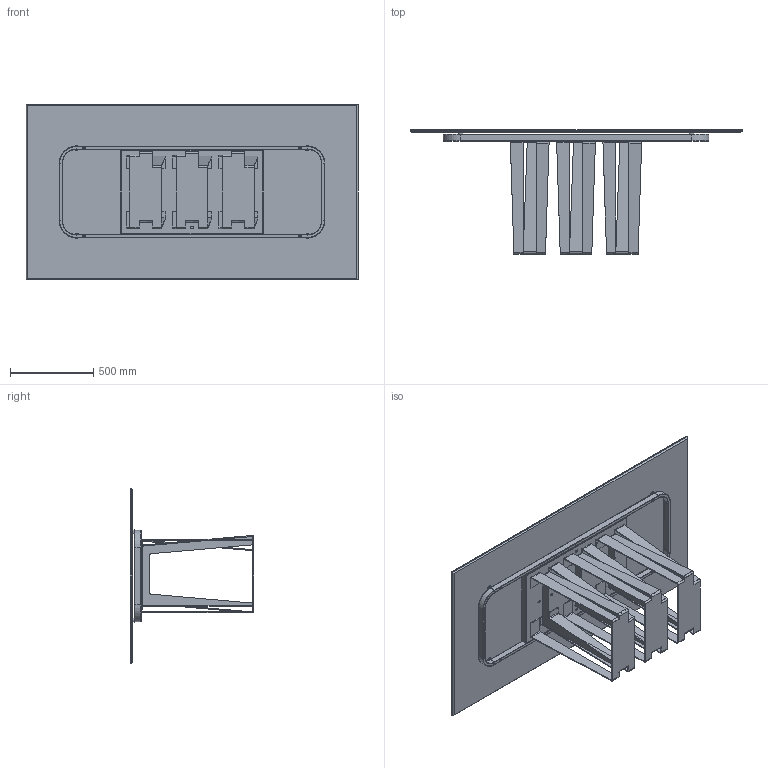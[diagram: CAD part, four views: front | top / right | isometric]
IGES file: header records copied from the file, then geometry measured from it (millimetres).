
Start section: SolidWorks IGES file using analytic representation for surfaces
Global section: file name: Y:\eforma\TECNICO\SOLIDWORKS\E-FORMA\1-TAVOLI\NARCISO\02 parts\NA21C.IGS; native system: SolidWorks 2022; preprocessor: SolidWorks 2022; author: eforma.tech; date: 240807.164213; units: millimetre
Bounding box: 2000 x 746 x 1060 mm (x, y, z)
Volume: 45319127.1 mm3; surface area: 13457375 mm2
Topology: 31 solids, 31 shells, 1005 faces, 2463 edges, 1514 vertices
Faces by surface type: plane 551, revolution 418, bspline 36
